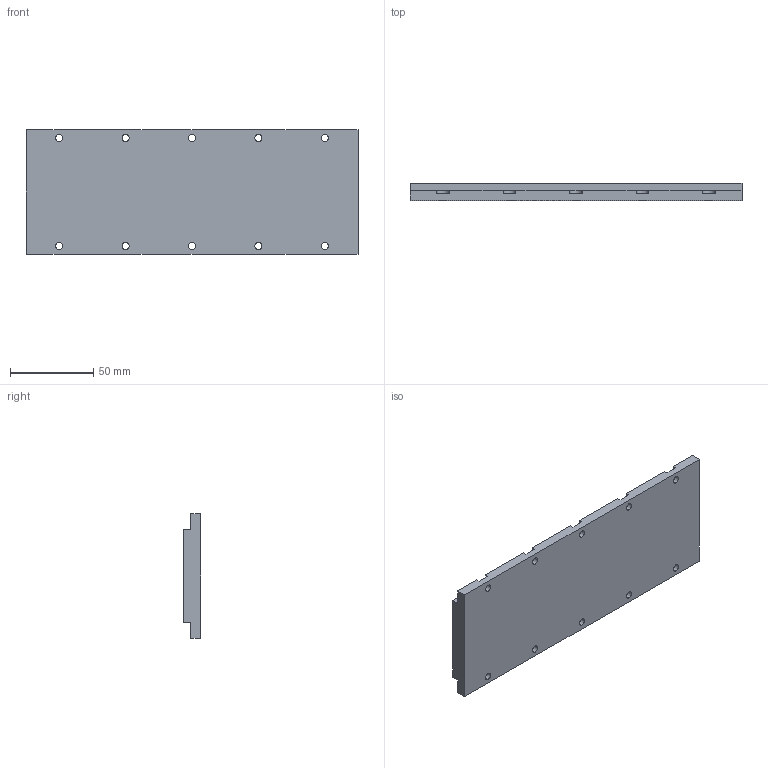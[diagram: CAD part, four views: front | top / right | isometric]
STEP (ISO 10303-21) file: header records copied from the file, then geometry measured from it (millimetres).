
FILE_DESCRIPTION (( 'STEP AP214' ), '1' );
FILE_NAME ('1-MJM050-L200.STEP', '2025-09-05T09:26:21', ( '' ), ( '' ), 'SwSTEP 2.0', 'SolidWorks 2016', '' );
FILE_SCHEMA (( 'AUTOMOTIVE_DESIGN' ));
Length unit declared in the file: millimetre
Products named in the file (1): 1-MJM050-L200
Bounding box: 200 x 10.3 x 75 mm (x, y, z)
Volume: 136731.3 mm3; surface area: 36040.6 mm2
Topology: 1 solids, 1 shells, 75 faces, 219 edges, 146 vertices
Faces by surface type: plane 40, cylinder 35
Entity records: 2577 total; most frequent: CARTESIAN_POINT 441, DIRECTION 441, ORIENTED_EDGE 438, EDGE_CURVE 219, LINE 149, VECTOR 149, VERTEX_POINT 146, AXIS2_PLACEMENT_3D 146
